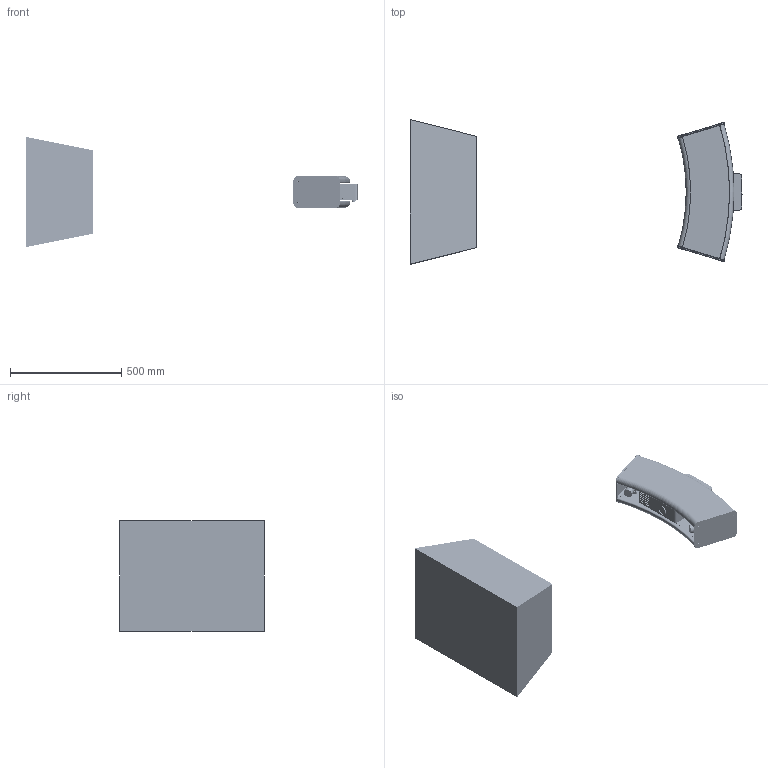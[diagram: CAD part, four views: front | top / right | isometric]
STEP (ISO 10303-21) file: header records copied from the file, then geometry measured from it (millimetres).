
FILE_DESCRIPTION((''),'2;1');
FILE_NAME('0000433493_ASM','2021-12-09T12:00:52',('pdmservice'),(''),'CREO PARAMETRIC BY PTC INC, 2018420','CREO PARAMETRIC BY PTC INC, 2018420','');
FILE_SCHEMA(('AUTOMOTIVE_DESIGN { 1 0 10303 214 1 1 1 1 }'));
Products named in the file (35): 0000427157_PRT; 0000433620_PRT; 0000427203_PRT; 0000427200_PRT; 0000427202_PRT; 0000427204_ASM; 0000427167_PRT; 0000427170_PRT; 0000427172_PRT; 0000427174_PRT; 0000427178_PRT; 0000427180_PRT; 0000427151_PRT; 0000427153_PRT; 0000427861_PRT; 0000427867_PRT; 0000427270_PRT; 0000427237_PRT; 0000427951_PRT; 0000427888_PRT; 0466016_PRT; 0000145117_PRT; 0000135227_PRT; 0000194705_PRT; 0000013120_PRT; 0000026021_PRT; 0000012527_PRT; 0000013114_PRT; 0000427186_PRT; 0000013143_PRT; 0000024246_PRT; 0000024291_PRT; 0000013146_PRT; 0000433295_PRT; 0000433493_ASM
Assembly tree (85 placements, depth 3):
  0000433493_ASM
    0000427157_PRT
    0000433620_PRT
    0000427204_ASM
      0000427203_PRT
      0000427200_PRT  x2
      0000427202_PRT
    0000427167_PRT
    0000427170_PRT
    0000427172_PRT
    0000427174_PRT
    0000427178_PRT  x2
    0000427180_PRT  x2
    0000427151_PRT  x2
    0000427153_PRT
    0000427861_PRT  x2
    0000427867_PRT
    0000427270_PRT
    0000427237_PRT
    0000427951_PRT  x2
    0000427888_PRT  x4
    0466016_PRT  x4
    0000145117_PRT  x4
    0000135227_PRT  x2
    0000194705_PRT  x2
    0000013120_PRT  x8
    0000026021_PRT  x6
    0000012527_PRT  x6
    0000013114_PRT  x6
    0000427186_PRT  x5
    0000013143_PRT  x4
    0000024246_PRT  x4
    0000024291_PRT  x2
    0000013146_PRT  x2
    0000433295_PRT
Bounding box: 1491.95 x 650 x 495 mm (x, y, z)
Volume: 80339669.6 mm3; surface area: 2846728.8 mm2
Topology: 84 solids, 144 shells, 7273 faces, 18536 edges, 11725 vertices
Faces by surface type: plane 3002, cylinder 2427, cone 784, torus 418, bspline 342, extrusion 236, sphere 60, revolution 4
Entity records: 206638 total; most frequent: CARTESIAN_POINT 44093, ORIENTED_EDGE 19592, DIRECTION 19585, PRESENTATION_STYLE_ASSIGNMENT 11174, EDGE_CURVE 9874, STYLED_ITEM 9006, CURVE_STYLE 8719, AXIS2_PLACEMENT_3D 7053
